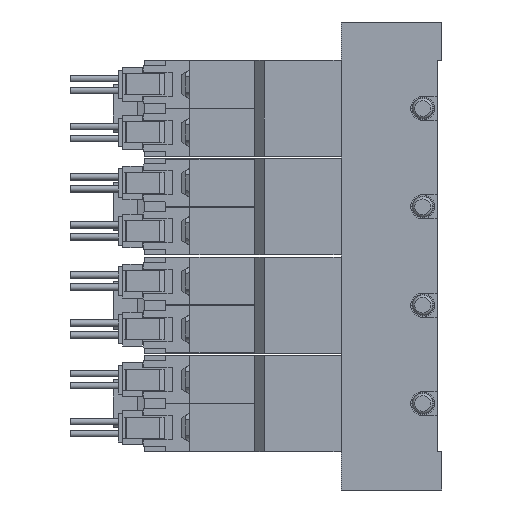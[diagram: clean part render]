
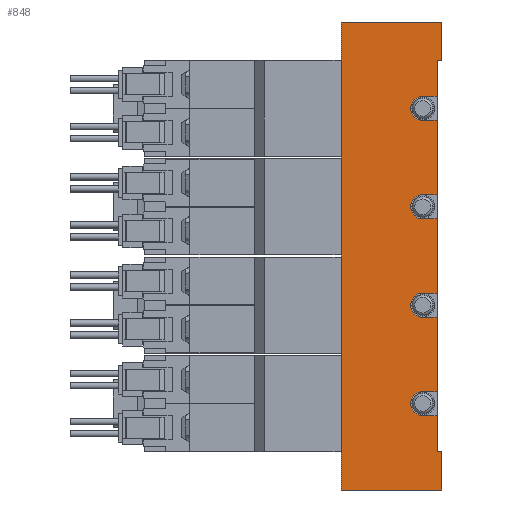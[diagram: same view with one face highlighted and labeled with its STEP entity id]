
A CAD part, left-side view. The second image highlights one B-rep face of the part: STEP entity #848.
In plain terms, the highlighted planar face has unit normal (-1, 0, 0) as drawn and (1, 0, 0) by its records, which use the part's own axes.
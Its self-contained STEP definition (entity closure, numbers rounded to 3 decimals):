
#848=ADVANCED_FACE('',(#1798),#1799,.F.);
#1798=FACE_OUTER_BOUND('',#2778,.T.);
#1799=PLANE('',#2779);
#2778=EDGE_LOOP('',(#6117,#6118,#6119,#6120,#6121,#6122,#6123,#6124,#6125,#6126,#6127,#6128,#6129,#6130,#6131,#6132,#6133,#6134,#6135,#6136,#6137,#6138,#6139,#6140));
#2779=AXIS2_PLACEMENT_3D('',#6141,#6142,#6143);
#6117=ORIENTED_EDGE('',*,*,#7252,.T.);
#6118=ORIENTED_EDGE('',*,*,#7169,.T.);
#6119=ORIENTED_EDGE('',*,*,#7246,.F.);
#6120=ORIENTED_EDGE('',*,*,#7232,.F.);
#6121=ORIENTED_EDGE('',*,*,#7292,.T.);
#6122=ORIENTED_EDGE('',*,*,#7293,.T.);
#6123=ORIENTED_EDGE('',*,*,#7288,.T.);
#6124=ORIENTED_EDGE('',*,*,#7269,.F.);
#6125=ORIENTED_EDGE('',*,*,#7281,.F.);
#6126=ORIENTED_EDGE('',*,*,#7261,.F.);
#6127=ORIENTED_EDGE('',*,*,#7287,.T.);
#6128=ORIENTED_EDGE('',*,*,#7291,.F.);
#6129=ORIENTED_EDGE('',*,*,#7214,.F.);
#6130=ORIENTED_EDGE('',*,*,#7182,.F.);
#6131=ORIENTED_EDGE('',*,*,#7285,.T.);
#6132=ORIENTED_EDGE('',*,*,#7258,.F.);
#6133=ORIENTED_EDGE('',*,*,#7280,.F.);
#6134=ORIENTED_EDGE('',*,*,#7243,.F.);
#6135=ORIENTED_EDGE('',*,*,#7284,.T.);
#6136=ORIENTED_EDGE('',*,*,#7274,.F.);
#6137=ORIENTED_EDGE('',*,*,#7294,.F.);
#6138=ORIENTED_EDGE('',*,*,#7206,.F.);
#6139=ORIENTED_EDGE('',*,*,#7283,.T.);
#6140=ORIENTED_EDGE('',*,*,#7267,.T.);
#6141=CARTESIAN_POINT('',(17.5,1.0,48.75));
#6142=DIRECTION('',(-1.0,0.0,0.0));
#6143=DIRECTION('',(0.0,0.0,1.0));
#7169=EDGE_CURVE('',#8868,#8869,#8870,.T.);
#7182=EDGE_CURVE('',#8894,#8895,#8896,.T.);
#7206=EDGE_CURVE('',#8938,#8939,#8940,.T.);
#7214=EDGE_CURVE('',#8895,#8950,#8951,.T.);
#7232=EDGE_CURVE('',#8979,#8981,#8982,.T.);
#7243=EDGE_CURVE('',#8999,#9000,#9001,.T.);
#7246=EDGE_CURVE('',#8981,#8869,#9004,.T.);
#7252=EDGE_CURVE('',#9013,#8868,#9014,.T.);
#7258=EDGE_CURVE('',#9023,#9024,#9025,.T.);
#7261=EDGE_CURVE('',#9028,#9029,#9030,.T.);
#7267=EDGE_CURVE('',#9034,#9013,#9037,.T.);
#7269=EDGE_CURVE('',#9039,#9040,#9041,.T.);
#7274=EDGE_CURVE('',#9048,#9049,#9050,.T.);
#7280=EDGE_CURVE('',#9000,#9023,#9057,.T.);
#7281=EDGE_CURVE('',#9029,#9039,#9058,.T.);
#7283=EDGE_CURVE('',#8938,#9034,#9061,.T.);
#7284=EDGE_CURVE('',#8999,#9049,#9062,.T.);
#7285=EDGE_CURVE('',#8894,#9024,#9063,.T.);
#7287=EDGE_CURVE('',#9028,#9064,#9066,.T.);
#7288=EDGE_CURVE('',#9067,#9040,#9068,.T.);
#7291=EDGE_CURVE('',#8950,#9064,#9072,.T.);
#7292=EDGE_CURVE('',#8979,#9073,#9074,.T.);
#7293=EDGE_CURVE('',#9073,#9067,#9075,.T.);
#7294=EDGE_CURVE('',#8939,#9048,#9076,.T.);
#8868=VERTEX_POINT('',#11781);
#8869=VERTEX_POINT('',#11782);
#8870=LINE('',#11783,#11784);
#8894=VERTEX_POINT('',#11815);
#8895=VERTEX_POINT('',#11816);
#8896=LINE('',#11817,#11818);
#8938=VERTEX_POINT('',#11870);
#8939=VERTEX_POINT('',#11871);
#8940=LINE('',#11872,#11873);
#8950=VERTEX_POINT('',#11886);
#8951=CIRCLE('',#11887,2.5);
#8979=VERTEX_POINT('',#11920);
#8981=VERTEX_POINT('',#11923);
#8982=LINE('',#11924,#11925);
#8999=VERTEX_POINT('',#11950);
#9000=VERTEX_POINT('',#11951);
#9001=LINE('',#11952,#11953);
#9004=LINE('',#11958,#11959);
#9013=VERTEX_POINT('',#11970);
#9014=LINE('',#11971,#11972);
#9023=VERTEX_POINT('',#11985);
#9024=VERTEX_POINT('',#11986);
#9025=LINE('',#11987,#11988);
#9028=VERTEX_POINT('',#11993);
#9029=VERTEX_POINT('',#11994);
#9030=LINE('',#11995,#11996);
#9034=VERTEX_POINT('',#12003);
#9037=LINE('',#12008,#12009);
#9039=VERTEX_POINT('',#12012);
#9040=VERTEX_POINT('',#12013);
#9041=LINE('',#12014,#12015);
#9048=VERTEX_POINT('',#12024);
#9049=VERTEX_POINT('',#12025);
#9050=LINE('',#12026,#12027);
#9057=CIRCLE('',#12036,2.5);
#9058=CIRCLE('',#12037,2.5);
#9061=LINE('',#12040,#12041);
#9062=LINE('',#12042,#12043);
#9063=LINE('',#12044,#12045);
#9064=VERTEX_POINT('',#12046);
#9066=LINE('',#12049,#12050);
#9067=VERTEX_POINT('',#12051);
#9068=LINE('',#12052,#12053);
#9072=LINE('',#12058,#12059);
#9073=VERTEX_POINT('',#12060);
#9074=LINE('',#12061,#12062);
#9075=LINE('',#12063,#12064);
#9076=CIRCLE('',#12065,2.5);
#11781=CARTESIAN_POINT('',(17.5,0.0,-48.75));
#11782=CARTESIAN_POINT('',(17.5,21.0,-48.75));
#11783=CARTESIAN_POINT('',(17.5,1.0,-48.75));
#11784=VECTOR('',#13237,1.0);
#11815=CARTESIAN_POINT('',(17.5,1.0,7.75));
#11816=CARTESIAN_POINT('',(17.5,4.0,7.75));
#11817=CARTESIAN_POINT('',(17.5,1.0,7.75));
#11818=VECTOR('',#13260,1.0);
#11870=CARTESIAN_POINT('',(17.5,1.0,-33.25));
#11871=CARTESIAN_POINT('',(17.5,4.0,-33.25));
#11872=CARTESIAN_POINT('',(17.5,1.0,-33.25));
#11873=VECTOR('',#13307,1.0);
#11886=CARTESIAN_POINT('',(17.5,4.0,12.75));
#11887=AXIS2_PLACEMENT_3D('',#13320,#13321,#13322);
#11920=CARTESIAN_POINT('',(17.5,0.0,48.75));
#11923=CARTESIAN_POINT('',(17.5,21.0,48.75));
#11924=CARTESIAN_POINT('',(17.5,1.0,48.75));
#11925=VECTOR('',#13359,1.0);
#11950=CARTESIAN_POINT('',(17.5,1.0,-12.75));
#11951=CARTESIAN_POINT('',(17.5,4.0,-12.75));
#11952=CARTESIAN_POINT('',(17.5,1.0,-12.75));
#11953=VECTOR('',#13374,1.0);
#11958=CARTESIAN_POINT('',(17.5,21.0,48.75));
#11959=VECTOR('',#13377,1.0);
#11970=CARTESIAN_POINT('',(17.5,0.0,-40.75));
#11971=CARTESIAN_POINT('',(17.5,0.0,-40.75));
#11972=VECTOR('',#13389,1.0);
#11985=CARTESIAN_POINT('',(17.5,4.0,-7.75));
#11986=CARTESIAN_POINT('',(17.5,1.0,-7.75));
#11987=CARTESIAN_POINT('',(17.5,1.0,-7.75));
#11988=VECTOR('',#13397,1.0);
#11993=CARTESIAN_POINT('',(17.5,1.0,28.25));
#11994=CARTESIAN_POINT('',(17.5,4.0,28.25));
#11995=CARTESIAN_POINT('',(17.5,1.0,28.25));
#11996=VECTOR('',#13400,1.0);
#12003=CARTESIAN_POINT('',(17.5,1.0,-40.75));
#12008=CARTESIAN_POINT('',(17.5,4.0,-40.75));
#12009=VECTOR('',#13406,1.0);
#12012=CARTESIAN_POINT('',(17.5,4.0,33.25));
#12013=CARTESIAN_POINT('',(17.5,1.0,33.25));
#12014=CARTESIAN_POINT('',(17.5,1.0,33.25));
#12015=VECTOR('',#13408,1.0);
#12024=CARTESIAN_POINT('',(17.5,4.0,-28.25));
#12025=CARTESIAN_POINT('',(17.5,1.0,-28.25));
#12026=CARTESIAN_POINT('',(17.5,1.0,-28.25));
#12027=VECTOR('',#13417,1.0);
#12036=AXIS2_PLACEMENT_3D('',#13426,#13427,#13428);
#12037=AXIS2_PLACEMENT_3D('',#13429,#13430,#13431);
#12040=CARTESIAN_POINT('',(17.5,1.0,48.75));
#12041=VECTOR('',#13435,1.0);
#12042=CARTESIAN_POINT('',(17.5,1.0,48.75));
#12043=VECTOR('',#13436,1.0);
#12044=CARTESIAN_POINT('',(17.5,1.0,48.75));
#12045=VECTOR('',#13437,1.0);
#12046=CARTESIAN_POINT('',(17.5,1.0,12.75));
#12049=CARTESIAN_POINT('',(17.5,1.0,48.75));
#12050=VECTOR('',#13439,1.0);
#12051=CARTESIAN_POINT('',(17.5,1.0,40.75));
#12052=CARTESIAN_POINT('',(17.5,1.0,48.75));
#12053=VECTOR('',#13440,1.0);
#12058=CARTESIAN_POINT('',(17.5,1.0,12.75));
#12059=VECTOR('',#13445,1.0);
#12060=CARTESIAN_POINT('',(17.5,0.0,40.75));
#12061=CARTESIAN_POINT('',(17.5,0.0,48.75));
#12062=VECTOR('',#13446,1.0);
#12063=CARTESIAN_POINT('',(17.5,0.0,40.75));
#12064=VECTOR('',#13447,1.0);
#12065=AXIS2_PLACEMENT_3D('',#13448,#13449,#13450);
#13237=DIRECTION('',(0.0,1.0,0.0));
#13260=DIRECTION('',(0.0,1.0,0.0));
#13307=DIRECTION('',(0.0,1.0,0.0));
#13320=CARTESIAN_POINT('',(17.5,4.0,10.25));
#13321=DIRECTION('',(1.0,0.0,-0.0));
#13322=DIRECTION('',(0.0,0.0,1.0));
#13359=DIRECTION('',(0.0,1.0,0.0));
#13374=DIRECTION('',(0.0,1.0,0.0));
#13377=DIRECTION('',(0.0,0.0,-1.0));
#13389=DIRECTION('',(0.0,0.0,-1.0));
#13397=DIRECTION('',(0.0,-1.0,0.0));
#13400=DIRECTION('',(0.0,1.0,0.0));
#13406=DIRECTION('',(0.0,-1.0,0.0));
#13408=DIRECTION('',(0.0,-1.0,0.0));
#13417=DIRECTION('',(0.0,-1.0,0.0));
#13426=CARTESIAN_POINT('',(17.5,4.0,-10.25));
#13427=DIRECTION('',(1.0,0.0,-0.0));
#13428=DIRECTION('',(0.0,0.0,1.0));
#13429=CARTESIAN_POINT('',(17.5,4.0,30.75));
#13430=DIRECTION('',(1.0,0.0,-0.0));
#13431=DIRECTION('',(0.0,0.0,1.0));
#13435=DIRECTION('',(0.0,0.0,-1.0));
#13436=DIRECTION('',(0.0,0.0,-1.0));
#13437=DIRECTION('',(0.0,0.0,-1.0));
#13439=DIRECTION('',(0.0,0.0,-1.0));
#13440=DIRECTION('',(0.0,0.0,-1.0));
#13445=DIRECTION('',(0.0,-1.0,0.0));
#13446=DIRECTION('',(0.0,0.0,-1.0));
#13447=DIRECTION('',(0.0,1.0,0.0));
#13448=CARTESIAN_POINT('',(17.5,4.0,-30.75));
#13449=DIRECTION('',(1.0,0.0,-0.0));
#13450=DIRECTION('',(0.0,0.0,1.0));
